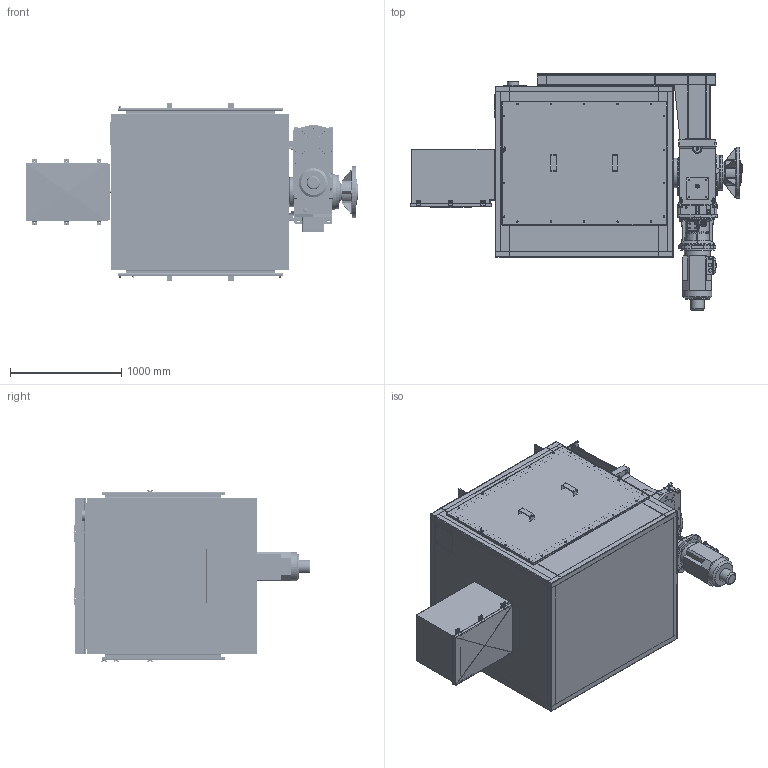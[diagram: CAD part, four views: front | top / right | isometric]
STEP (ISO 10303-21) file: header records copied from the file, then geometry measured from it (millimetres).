
FILE_DESCRIPTION(/* description */ (''),/* implementation_level */ '2;1');
FILE_NAME(/* name */ 'K:\NEMANJA\CABLE REEL\CABLE REEL DA\0700-6\07006005 DA-CRVD\STEP\75981 .stp',/* time_stamp */ '2017-03-16T15:16:59+01:00',/* author */ ('milman01'),/* organization */ ('Hillmar Industries Ltd.'),/* preprocessor_version */ 'ST-DEVELOPER v16.1',/* originating_system */ 'Autodesk Inventor 2016',/* authorisation */ '');
FILE_SCHEMA (('AUTOMOTIVE_DESIGN { 1 0 10303 214 3 1 1 }'));
Products named in the file (1): 75981 
Bounding box: 2980.69 x 2122.09 x 1606.6 mm (x, y, z)
Volume: 183524119.6 mm3; surface area: 49003750.9 mm2
Topology: 21 solids, 21 shells, 4900 faces, 12836 edges, 8158 vertices
Faces by surface type: plane 2277, cylinder 1494, bspline 591, cone 304, torus 208, sphere 26
Full cylindrical faces by diameter (mm): 7 x2, 8 x2, 8.376 x20, 8.731 x1, 9 x7, 10 x24, 10.106 x91, 10.4 x4, 11 x20, 12 x35, 12.5 x6, 13 x66, 13.5 x12, 14 x20, 14.5 x8, 15 x4, 16 x2, 18.256 x3, 18.38 x2, 20 x25, 20.5 x4, 21.336 x1, 22 x20, 22.225 x1, 22.3 x2, 23.376 x2, 23.812 x2, 24.917 x1, 24.918 x1, 25 x4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
Entity records: 165136 total; most frequent: CARTESIAN_POINT 46485, ORIENTED_EDGE 23382, DIRECTION 22345, EDGE_CURVE 11677, AXIS2_PLACEMENT_3D 8005, VERTEX_POINT 7793, EDGE_LOOP 6347, LINE 6335
